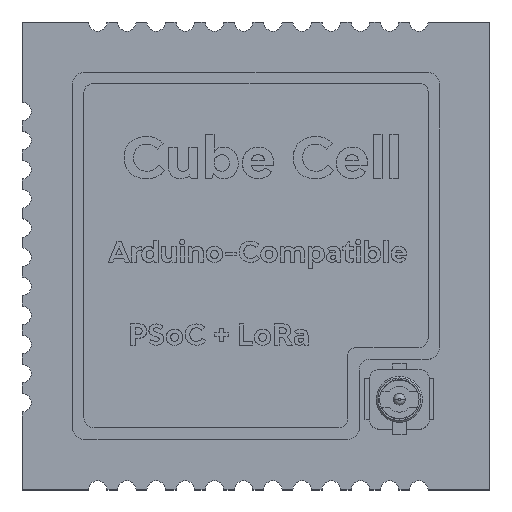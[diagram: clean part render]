
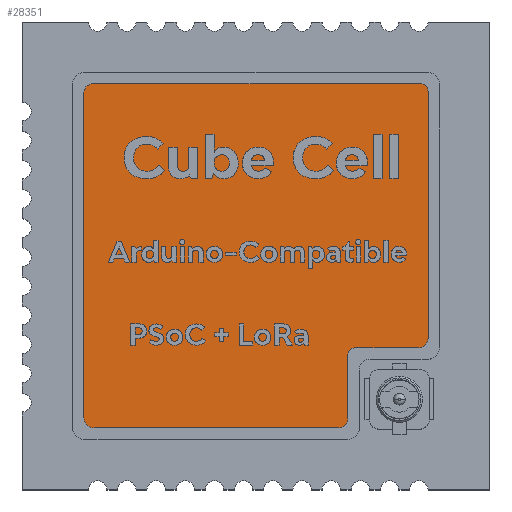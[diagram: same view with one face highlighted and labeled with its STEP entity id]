
A CAD part, top view. The second image highlights one B-rep face of the part: STEP entity #28351.
In plain terms, the highlighted planar face has unit normal (0, 0, 1).
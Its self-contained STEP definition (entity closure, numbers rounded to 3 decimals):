
#28063 = VERTEX_POINT('',#28064);
#28064 = CARTESIAN_POINT('',(-7.5,7.126,3.1));
#28070 = EDGE_CURVE('',#28071,#28063,#28073,.T.);
#28071 = VERTEX_POINT('',#28072);
#28072 = CARTESIAN_POINT('',(-7.126,7.5,3.1));
#28073 = CIRCLE('',#28074,0.374);
#28074 = AXIS2_PLACEMENT_3D('',#28075,#28076,#28077);
#28075 = CARTESIAN_POINT('',(-7.126,7.126,3.1));
#28076 = DIRECTION('',(0.,0.,1.));
#28077 = DIRECTION('',(1.,0.,-0.));
#28094 = VERTEX_POINT('',#28095);
#28095 = CARTESIAN_POINT('',(-7.5,-7.05,3.1));
#28101 = EDGE_CURVE('',#28094,#28063,#28102,.T.);
#28102 = LINE('',#28103,#28104);
#28103 = CARTESIAN_POINT('',(-7.5,-7.05,3.1));
#28104 = VECTOR('',#28105,1.);
#28105 = DIRECTION('',(0.,1.,0.));
#28119 = VERTEX_POINT('',#28120);
#28120 = CARTESIAN_POINT('',(-7.05,-7.5,3.1));
#28126 = EDGE_CURVE('',#28094,#28119,#28127,.T.);
#28127 = CIRCLE('',#28128,0.45);
#28128 = AXIS2_PLACEMENT_3D('',#28129,#28130,#28131);
#28129 = CARTESIAN_POINT('',(-7.05,-7.05,3.1));
#28130 = DIRECTION('',(0.,0.,1.));
#28131 = DIRECTION('',(1.,0.,-0.));
#28143 = VERTEX_POINT('',#28144);
#28144 = CARTESIAN_POINT('',(3.605,-7.5,3.1));
#28150 = EDGE_CURVE('',#28143,#28119,#28151,.T.);
#28151 = LINE('',#28152,#28153);
#28152 = CARTESIAN_POINT('',(3.605,-7.5,3.1));
#28153 = VECTOR('',#28154,1.);
#28154 = DIRECTION('',(-1.,0.,0.));
#28168 = VERTEX_POINT('',#28169);
#28169 = CARTESIAN_POINT('',(4.,-7.105,3.1));
#28175 = EDGE_CURVE('',#28143,#28168,#28176,.T.);
#28176 = CIRCLE('',#28177,0.395);
#28177 = AXIS2_PLACEMENT_3D('',#28178,#28179,#28180);
#28178 = CARTESIAN_POINT('',(3.605,-7.105,3.1));
#28179 = DIRECTION('',(0.,0.,1.));
#28180 = DIRECTION('',(1.,0.,-0.));
#28192 = VERTEX_POINT('',#28193);
#28193 = CARTESIAN_POINT('',(4.,-4.348,3.1));
#28199 = EDGE_CURVE('',#28192,#28168,#28200,.T.);
#28200 = LINE('',#28201,#28202);
#28201 = CARTESIAN_POINT('',(4.,-4.348,3.1));
#28202 = VECTOR('',#28203,1.);
#28203 = DIRECTION('',(0.,-1.,0.));
#28217 = EDGE_CURVE('',#28218,#28192,#28220,.T.);
#28218 = VERTEX_POINT('',#28219);
#28219 = CARTESIAN_POINT('',(4.348,-4.,3.1));
#28220 = CIRCLE('',#28221,0.348);
#28221 = AXIS2_PLACEMENT_3D('',#28222,#28223,#28224);
#28222 = CARTESIAN_POINT('',(4.348,-4.348,3.1));
#28223 = DIRECTION('',(0.,0.,1.));
#28224 = DIRECTION('',(1.,0.,-0.));
#28241 = VERTEX_POINT('',#28242);
#28242 = CARTESIAN_POINT('',(7.092,-4.,3.1));
#28248 = EDGE_CURVE('',#28241,#28218,#28249,.T.);
#28249 = LINE('',#28250,#28251);
#28250 = CARTESIAN_POINT('',(7.092,-4.,3.1));
#28251 = VECTOR('',#28252,1.);
#28252 = DIRECTION('',(-1.,0.,0.));
#28266 = VERTEX_POINT('',#28267);
#28267 = CARTESIAN_POINT('',(7.5,-3.592,3.1));
#28273 = EDGE_CURVE('',#28241,#28266,#28274,.T.);
#28274 = CIRCLE('',#28275,0.408);
#28275 = AXIS2_PLACEMENT_3D('',#28276,#28277,#28278);
#28276 = CARTESIAN_POINT('',(7.092,-3.592,3.1));
#28277 = DIRECTION('',(0.,0.,1.));
#28278 = DIRECTION('',(1.,0.,-0.));
#28290 = VERTEX_POINT('',#28291);
#28291 = CARTESIAN_POINT('',(7.5,7.171,3.1));
#28297 = EDGE_CURVE('',#28290,#28266,#28298,.T.);
#28298 = LINE('',#28299,#28300);
#28299 = CARTESIAN_POINT('',(7.5,7.171,3.1));
#28300 = VECTOR('',#28301,1.);
#28301 = DIRECTION('',(0.,-1.,0.));
#28315 = VERTEX_POINT('',#28316);
#28316 = CARTESIAN_POINT('',(7.171,7.5,3.1));
#28322 = EDGE_CURVE('',#28290,#28315,#28323,.T.);
#28323 = CIRCLE('',#28324,0.329);
#28324 = AXIS2_PLACEMENT_3D('',#28325,#28326,#28327);
#28325 = CARTESIAN_POINT('',(7.171,7.171,3.1));
#28326 = DIRECTION('',(0.,0.,1.));
#28327 = DIRECTION('',(1.,0.,-0.));
#28339 = EDGE_CURVE('',#28071,#28315,#28340,.T.);
#28340 = LINE('',#28341,#28342);
#28341 = CARTESIAN_POINT('',(-7.126,7.5,3.1));
#28342 = VECTOR('',#28343,1.);
#28343 = DIRECTION('',(1.,0.,0.));
#28351 = ADVANCED_FACE('',(#28352),#28366,.T.);
#28352 = FACE_BOUND('',#28353,.F.);
#28353 = EDGE_LOOP('',(#28354,#28355,#28356,#28357,#28358,#28359,#28360,
    #28361,#28362,#28363,#28364,#28365));
#28354 = ORIENTED_EDGE('',*,*,#28339,.T.);
#28355 = ORIENTED_EDGE('',*,*,#28322,.F.);
#28356 = ORIENTED_EDGE('',*,*,#28297,.T.);
#28357 = ORIENTED_EDGE('',*,*,#28273,.F.);
#28358 = ORIENTED_EDGE('',*,*,#28248,.T.);
#28359 = ORIENTED_EDGE('',*,*,#28217,.T.);
#28360 = ORIENTED_EDGE('',*,*,#28199,.T.);
#28361 = ORIENTED_EDGE('',*,*,#28175,.F.);
#28362 = ORIENTED_EDGE('',*,*,#28150,.T.);
#28363 = ORIENTED_EDGE('',*,*,#28126,.F.);
#28364 = ORIENTED_EDGE('',*,*,#28101,.T.);
#28365 = ORIENTED_EDGE('',*,*,#28070,.F.);
#28366 = PLANE('',#28367);
#28367 = AXIS2_PLACEMENT_3D('',#28368,#28369,#28370);
#28368 = CARTESIAN_POINT('',(-0.225,0.239,3.1));
#28369 = DIRECTION('',(0.,0.,1.));
#28370 = DIRECTION('',(0.,1.,0.));
